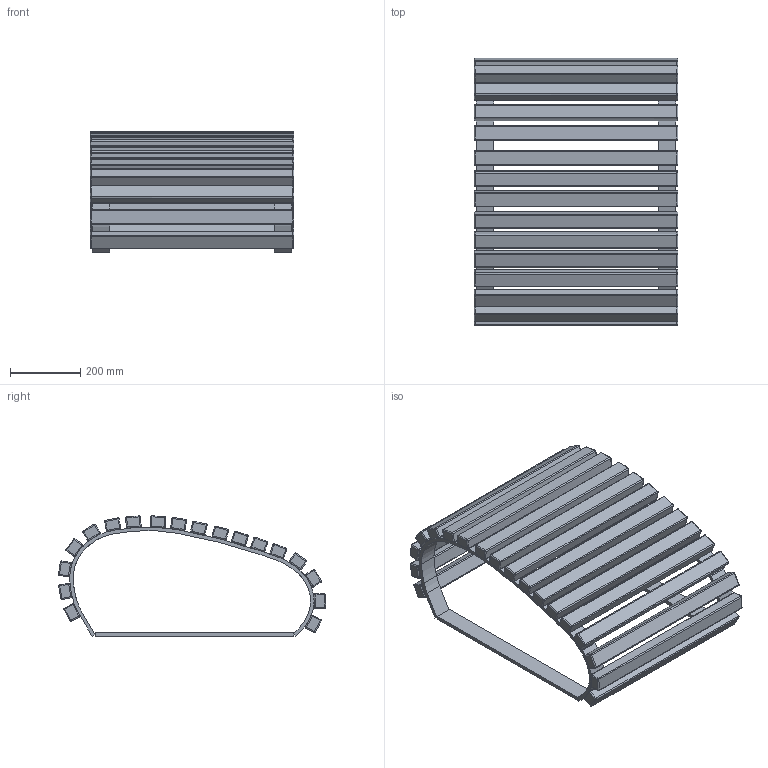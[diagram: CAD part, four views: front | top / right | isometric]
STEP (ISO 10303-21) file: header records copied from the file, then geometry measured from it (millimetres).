
FILE_DESCRIPTION(/* description */ (''),/* implementation_level */ '2;1');
FILE_NAME(/* name */ 'ENV02-A1_UAP_ENVIRON_Bench_3D',/* time_stamp */ '2018-01-23T18:17:45-05:00',/* author */ (''),/* organization */ (''),/* preprocessor_version */ 'ST-DEVELOPER v15',/* originating_system */ '',/* authorisation */ '');
FILE_SCHEMA (('AUTOMOTIVE_DESIGN'));
Length unit declared in the file: millimetre
Products named in the file (1): Document
Bounding box: 580 x 761.22 x 342.86 mm (x, y, z)
Volume: 15633678.2 mm3; surface area: 1942838.6 mm2
Topology: 22 solids, 22 shells, 562 faces, 1266 edges, 604 vertices
Faces by surface type: bspline 438, plane 124
Entity records: 13387 total; most frequent: CARTESIAN_POINT 6638, ORIENTED_EDGE 2244, EDGE_CURVE 1122, VERTEX_POINT 604, ADVANCED_FACE 562, FACE_OUTER_BOUND 562, EDGE_LOOP 562, B_SPLINE_CURVE_WITH_KNOTS 456
